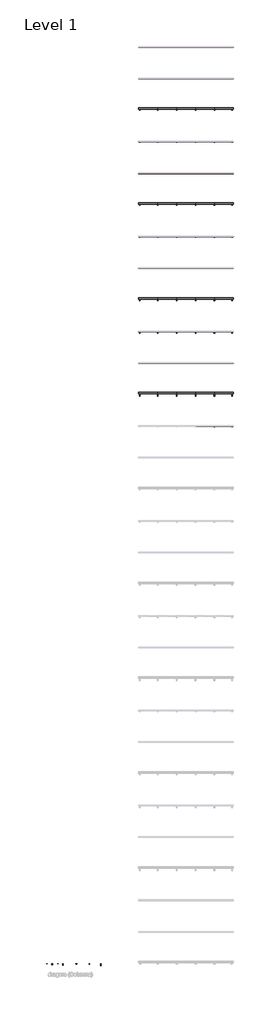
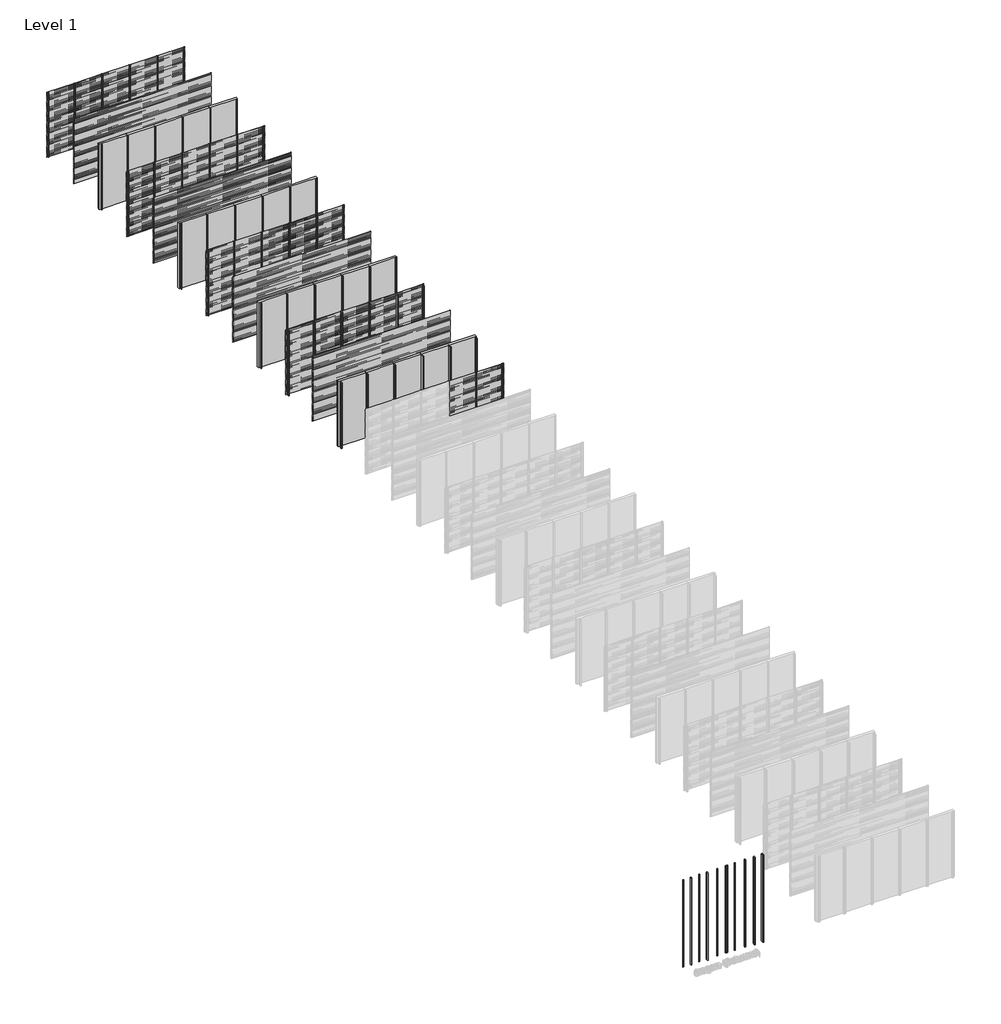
# One storey, part 2 of 33: 50 members, 46 plates, 10 columns.
"""IFC4 building model written with IfcOpenShell, lengths in millimetres."""

from ifc_helpers import new_model, si_unit, origin, origin_with_axes, place, context, project, spatial, polyline, outline, extrude, transform, mapped, element, save
from components import std_5c565dbb, std_899e7a4b, std_785593f7, std_43d18051, std_98619cea, std_01971508, std_518c84ec, std_1eaa2876, std_77a662f7, std_0d551fe3, rectangular_mullion_42be434b, rectangular_mullion_e1f482b2, rectangular_mullion_21e3ddae, rectangular_mullion_fb497acc, rectangular_mullion_3facce28, rectangular_mullion_ffdfeaf4, rectangular_mullion_e0a14876, rectangular_mullion_146f339b, rectangular_mullion_aa1047c5, rectangular_mullion_c2c7736a, rectangular_mullion_35b0a916, rectangular_mullion_bd250e2e, rectangular_mullion_7b49c8f1, rectangular_mullion_0fd695e7, empty_system_panel_empty_aabbdda4

model = new_model("IFC4")

# Units and contexts
model_context = context("Model", 3, world=origin())
ifc_project = project(units=[si_unit("LENGTHUNIT", "METRE", prefix="MILLI")], contexts=[model_context])

# Site, building, storey
site = spatial("IfcSite", under=ifc_project)
building = spatial("IfcBuilding", under=site)
storey = spatial("IfcBuildingStorey", under=building, Name="Level 1", Elevation=0.0)

# Columns
placement = place(None, origin())
std_shape = std_5c565dbb(model_context)
element("IfcColumn", 1, ObjectType="NLRS_21_COL_drager ST.014_Storax : std", at=placement, inside=storey, context=model_context, shape_type="MappedRepresentation", body=[
    mapped(std_shape, transform((-5824.7601511, -58000.0, 0.0), x_axis=(1.0, 0.0, 0.0), y_axis=(0.0, 1.0, 0.0), z_axis=(0.0, 0.0, 1.0))),
])
std_2_shape = std_899e7a4b(model_context)
element("IfcColumn", 2, ObjectType="NLRS_21_COL_drager ST.054_Storax : std", at=placement, inside=storey, context=model_context, shape_type="MappedRepresentation", body=[
    mapped(std_2_shape, transform((-5485.4429851, -58000.0, 0.0), x_axis=(1.0, 0.0, 0.0), y_axis=(0.0, 1.0, 0.0), z_axis=(0.0, 0.0, 1.0))),
])
std_3_shape = std_785593f7(model_context)
element("IfcColumn", 3, ObjectType="NLRS_21_COL_drager ST.0065_Storax : std", at=placement, inside=storey, context=model_context, shape_type="MappedRepresentation", body=[
    mapped(std_3_shape, transform((-5120.6954358, -58000.0, 0.0), x_axis=(1.0, 0.0, 0.0), y_axis=(0.0, 1.0, 0.0), z_axis=(0.0, 0.0, 1.0))),
])
std_4_shape = std_43d18051(model_context)
element("IfcColumn", 4, ObjectType="NLRS_21_COL_drager ST.100_Storax : std", at=placement, inside=storey, context=model_context, shape_type="MappedRepresentation", body=[
    mapped(std_4_shape, transform((-4798.3288682, -58000.0, 0.0), x_axis=(1.0, 0.0, 0.0), y_axis=(0.0, 1.0, 0.0), z_axis=(0.0, 0.0, 1.0))),
])
std_5_shape = std_98619cea(model_context)
element("IfcColumn", 5, ObjectType="NLRS_21_COL_drager ST.0195_Storax : std", at=placement, inside=storey, context=model_context, shape_type="MappedRepresentation", body=[
    mapped(std_5_shape, transform((-4346.8344505, -58000.0, 0.0), x_axis=(1.0, 0.0, 0.0), y_axis=(0.0, 1.0, 0.0), z_axis=(0.0, 0.0, 1.0))),
])
std_6_shape = std_01971508(model_context)
element("IfcColumn", 6, ObjectType="NLRS_21_COL_drager ST.0240_Storax : std", at=placement, inside=storey, context=model_context, shape_type="MappedRepresentation", body=[
    mapped(std_6_shape, transform((-3939.4792083, -58000.0, 0.0), x_axis=(1.0, 0.0, 0.0), y_axis=(0.0, 1.0, 0.0), z_axis=(0.0, 0.0, 1.0))),
])
std_7_shape = std_518c84ec(model_context)
element("IfcColumn", 7, ObjectType="NLRS_21_COL_drager ST.0440_Storax : std", at=placement, inside=storey, context=model_context, shape_type="MappedRepresentation", body=[
    mapped(std_7_shape, transform((-3585.3839676, -58000.0, 0.0), x_axis=(1.0, 0.0, 0.0), y_axis=(0.0, 1.0, 0.0), z_axis=(0.0, 0.0, 1.0))),
])
std_8_shape = std_1eaa2876(model_context)
element("IfcColumn", 8, ObjectType="NLRS_21_COL_drager ST.0460_Storax : std", at=placement, inside=storey, context=model_context, shape_type="MappedRepresentation", body=[
    mapped(std_8_shape, transform((-3138.0700537, -58000.0, 0.0), x_axis=(1.0, 0.0, 0.0), y_axis=(0.0, 1.0, 0.0), z_axis=(0.0, 0.0, 1.0))),
])
std_9_shape = std_77a662f7(model_context)
element("IfcColumn", 9, ObjectType="NLRS_21_COL_drager ST.0995_Storax : std", at=placement, inside=storey, context=model_context, shape_type="MappedRepresentation", body=[
    mapped(std_9_shape, transform((-2753.4636979, -58000.0, 0.0), x_axis=(1.0, 0.0, 0.0), y_axis=(0.0, 1.0, 0.0), z_axis=(0.0, 0.0, 1.0))),
])
std_10_shape = std_0d551fe3(model_context)
element("IfcColumn", 10, ObjectType="NLRS_21_COL_drager ST.1250_Storax : std", at=placement, inside=storey, context=model_context, shape_type="MappedRepresentation", body=[
    mapped(std_10_shape, transform((-2393.9403653, -58000.0, 0.0), x_axis=(1.0, 0.0, 0.0), y_axis=(0.0, 1.0, 0.0), z_axis=(0.0, 0.0, 1.0))),
])

# Members
rectangular_mullion_shape = rectangular_mullion_42be434b(model_context)
element("IfcMember", 11, ObjectType="Rectangular Mullion : NLRS_21_CWM_drager LD.0065_Storax", at=placement, inside=storey, context=model_context, shape_type="MappedRepresentation", body=[
    mapped(rectangular_mullion_shape, transform((4800.0, 0.0, 0.0), x_axis=(-1.0, 0.0, 0.0), y_axis=(0.0, 1.0, 0.0), z_axis=(0.0, 0.0, -1.0))),
])
element("IfcMember", 12, ObjectType="Rectangular Mullion : NLRS_21_CWM_drager LD.0065_Storax", at=placement, inside=storey, context=model_context, shape_type="MappedRepresentation", body=[
    mapped(rectangular_mullion_shape, transform((3600.0, 0.0, 0.0), x_axis=(-1.0, 0.0, 0.0), y_axis=(0.0, 1.0, 0.0), z_axis=(0.0, 0.0, -1.0))),
])
element("IfcMember", 13, ObjectType="Rectangular Mullion : NLRS_21_CWM_drager LD.0065_Storax", at=placement, inside=storey, context=model_context, shape_type="MappedRepresentation", body=[
    mapped(rectangular_mullion_shape, transform((2400.0, 0.0, 0.0), x_axis=(-1.0, 0.0, 0.0), y_axis=(0.0, 1.0, 0.0), z_axis=(0.0, 0.0, -1.0))),
])
element("IfcMember", 14, ObjectType="Rectangular Mullion : NLRS_21_CWM_drager LD.0065_Storax", at=placement, inside=storey, context=model_context, shape_type="MappedRepresentation", body=[
    mapped(rectangular_mullion_shape, transform((1200.0, 0.0, 0.0), x_axis=(-1.0, 0.0, 0.0), y_axis=(0.0, 1.0, 0.0), z_axis=(0.0, 0.0, -1.0))),
])
element("IfcMember", 15, ObjectType="Rectangular Mullion : NLRS_21_CWM_drager LD.0065_Storax", at=placement, inside=storey, context=model_context, shape_type="MappedRepresentation", body=[
    mapped(rectangular_mullion_shape, transform((4800.0, -4000.0, 0.0), x_axis=(-1.0, 0.0, 0.0), y_axis=(0.0, 1.0, 0.0), z_axis=(0.0, 0.0, -1.0))),
])
element("IfcMember", 16, ObjectType="Rectangular Mullion : NLRS_21_CWM_drager LD.0065_Storax", at=placement, inside=storey, context=model_context, shape_type="MappedRepresentation", body=[
    mapped(rectangular_mullion_shape, transform((3600.0, -4000.0, 0.0), x_axis=(-1.0, 0.0, 0.0), y_axis=(0.0, 1.0, 0.0), z_axis=(0.0, 0.0, -1.0))),
])
element("IfcMember", 17, ObjectType="Rectangular Mullion : NLRS_21_CWM_drager LD.0065_Storax", at=placement, inside=storey, context=model_context, shape_type="MappedRepresentation", body=[
    mapped(rectangular_mullion_shape, transform((2400.0, -4000.0, 0.0), x_axis=(-1.0, 0.0, 0.0), y_axis=(0.0, 1.0, 0.0), z_axis=(0.0, 0.0, -1.0))),
])
element("IfcMember", 18, ObjectType="Rectangular Mullion : NLRS_21_CWM_drager LD.0065_Storax", at=placement, inside=storey, context=model_context, shape_type="MappedRepresentation", body=[
    mapped(rectangular_mullion_shape, transform((1200.0, -4000.0, 0.0), x_axis=(-1.0, 0.0, 0.0), y_axis=(0.0, 1.0, 0.0), z_axis=(0.0, 0.0, -1.0))),
])
rectangular_mullion_2_shape = rectangular_mullion_e1f482b2(model_context)
element("IfcMember", 19, ObjectType="Rectangular Mullion : NLRS_21_CWM_drager LD.0195_Storax", at=placement, inside=storey, context=model_context, shape_type="MappedRepresentation", body=[
    mapped(rectangular_mullion_2_shape, transform((4800.0, -6000.0, 0.0), x_axis=(-1.0, 0.0, 0.0), y_axis=(0.0, 1.0, 0.0), z_axis=(0.0, 0.0, -1.0))),
])
element("IfcMember", 20, ObjectType="Rectangular Mullion : NLRS_21_CWM_drager LD.0195_Storax", at=placement, inside=storey, context=model_context, shape_type="MappedRepresentation", body=[
    mapped(rectangular_mullion_2_shape, transform((3600.0, -6000.0, 0.0), x_axis=(-1.0, 0.0, 0.0), y_axis=(0.0, 1.0, 0.0), z_axis=(0.0, 0.0, -1.0))),
])
element("IfcMember", 21, ObjectType="Rectangular Mullion : NLRS_21_CWM_drager LD.0195_Storax", at=placement, inside=storey, context=model_context, shape_type="MappedRepresentation", body=[
    mapped(rectangular_mullion_2_shape, transform((2400.0, -6000.0, 0.0), x_axis=(-1.0, 0.0, 0.0), y_axis=(0.0, 1.0, 0.0), z_axis=(0.0, 0.0, -1.0))),
])
element("IfcMember", 22, ObjectType="Rectangular Mullion : NLRS_21_CWM_drager LD.0195_Storax", at=placement, inside=storey, context=model_context, shape_type="MappedRepresentation", body=[
    mapped(rectangular_mullion_2_shape, transform((1200.0, -6000.0, 0.0), x_axis=(-1.0, 0.0, 0.0), y_axis=(0.0, 1.0, 0.0), z_axis=(0.0, 0.0, -1.0))),
])
element("IfcMember", 23, ObjectType="Rectangular Mullion : NLRS_21_CWM_drager LD.0195_Storax", at=placement, inside=storey, context=model_context, shape_type="MappedRepresentation", body=[
    mapped(rectangular_mullion_2_shape, transform((4800.0, -10000.0, 0.0), x_axis=(-1.0, 0.0, 0.0), y_axis=(0.0, 1.0, 0.0), z_axis=(0.0, 0.0, -1.0))),
])
element("IfcMember", 24, ObjectType="Rectangular Mullion : NLRS_21_CWM_drager LD.0195_Storax", at=placement, inside=storey, context=model_context, shape_type="MappedRepresentation", body=[
    mapped(rectangular_mullion_2_shape, transform((3600.0, -10000.0, 0.0), x_axis=(-1.0, 0.0, 0.0), y_axis=(0.0, 1.0, 0.0), z_axis=(0.0, 0.0, -1.0))),
])
element("IfcMember", 25, ObjectType="Rectangular Mullion : NLRS_21_CWM_drager LD.0195_Storax", at=placement, inside=storey, context=model_context, shape_type="MappedRepresentation", body=[
    mapped(rectangular_mullion_2_shape, transform((2400.0, -10000.0, 0.0), x_axis=(-1.0, 0.0, 0.0), y_axis=(0.0, 1.0, 0.0), z_axis=(0.0, 0.0, -1.0))),
])
element("IfcMember", 26, ObjectType="Rectangular Mullion : NLRS_21_CWM_drager LD.0195_Storax", at=placement, inside=storey, context=model_context, shape_type="MappedRepresentation", body=[
    mapped(rectangular_mullion_2_shape, transform((1200.0, -10000.0, 0.0), x_axis=(-1.0, 0.0, 0.0), y_axis=(0.0, 1.0, 0.0), z_axis=(0.0, 0.0, -1.0))),
])
rectangular_mullion_3_shape = rectangular_mullion_21e3ddae(model_context)
element("IfcMember", 27, ObjectType="Rectangular Mullion : NLRS_21_CWM_drager LD.0460_Storax", at=placement, inside=storey, context=model_context, shape_type="MappedRepresentation", body=[
    mapped(rectangular_mullion_3_shape, transform((4800.0, -12000.0, 0.0), x_axis=(-1.0, 0.0, 0.0), y_axis=(0.0, 1.0, 0.0), z_axis=(0.0, 0.0, -1.0))),
])
element("IfcMember", 28, ObjectType="Rectangular Mullion : NLRS_21_CWM_drager LD.0460_Storax", at=placement, inside=storey, context=model_context, shape_type="MappedRepresentation", body=[
    mapped(rectangular_mullion_3_shape, transform((3600.0, -12000.0, 0.0), x_axis=(-1.0, 0.0, 0.0), y_axis=(0.0, 1.0, 0.0), z_axis=(0.0, 0.0, -1.0))),
])
element("IfcMember", 29, ObjectType="Rectangular Mullion : NLRS_21_CWM_drager LD.0460_Storax", at=placement, inside=storey, context=model_context, shape_type="MappedRepresentation", body=[
    mapped(rectangular_mullion_3_shape, transform((2400.0, -12000.0, 0.0), x_axis=(-1.0, 0.0, 0.0), y_axis=(0.0, 1.0, 0.0), z_axis=(0.0, 0.0, -1.0))),
])
element("IfcMember", 30, ObjectType="Rectangular Mullion : NLRS_21_CWM_drager LD.0460_Storax", at=placement, inside=storey, context=model_context, shape_type="MappedRepresentation", body=[
    mapped(rectangular_mullion_3_shape, transform((1200.0, -12000.0, 0.0), x_axis=(-1.0, 0.0, 0.0), y_axis=(0.0, 1.0, 0.0), z_axis=(0.0, 0.0, -1.0))),
])
element("IfcMember", 31, ObjectType="Rectangular Mullion : NLRS_21_CWM_drager LD.0460_Storax", at=placement, inside=storey, context=model_context, shape_type="MappedRepresentation", body=[
    mapped(rectangular_mullion_3_shape, transform((4800.0, -16000.0, 0.0), x_axis=(-1.0, 0.0, 0.0), y_axis=(0.0, 1.0, 0.0), z_axis=(0.0, 0.0, -1.0))),
])
element("IfcMember", 32, ObjectType="Rectangular Mullion : NLRS_21_CWM_drager LD.0460_Storax", at=placement, inside=storey, context=model_context, shape_type="MappedRepresentation", body=[
    mapped(rectangular_mullion_3_shape, transform((3600.0, -16000.0, 0.0), x_axis=(-1.0, 0.0, 0.0), y_axis=(0.0, 1.0, 0.0), z_axis=(0.0, 0.0, -1.0))),
])
element("IfcMember", 33, ObjectType="Rectangular Mullion : NLRS_21_CWM_drager LD.0460_Storax", at=placement, inside=storey, context=model_context, shape_type="MappedRepresentation", body=[
    mapped(rectangular_mullion_3_shape, transform((2400.0, -16000.0, 0.0), x_axis=(-1.0, 0.0, 0.0), y_axis=(0.0, 1.0, 0.0), z_axis=(0.0, 0.0, -1.0))),
])
element("IfcMember", 34, ObjectType="Rectangular Mullion : NLRS_21_CWM_drager LD.0460_Storax", at=placement, inside=storey, context=model_context, shape_type="MappedRepresentation", body=[
    mapped(rectangular_mullion_3_shape, transform((1200.0, -16000.0, 0.0), x_axis=(-1.0, 0.0, 0.0), y_axis=(0.0, 1.0, 0.0), z_axis=(0.0, 0.0, -1.0))),
])
rectangular_mullion_4_shape = rectangular_mullion_fb497acc(model_context)
element("IfcMember", 35, ObjectType="Rectangular Mullion : NLRS_21_CWM_drager LD.0995_Storax", at=placement, inside=storey, context=model_context, shape_type="MappedRepresentation", body=[
    mapped(rectangular_mullion_4_shape, transform((4800.0, -18000.0, 0.0), x_axis=(-1.0, 0.0, 0.0), y_axis=(0.0, 1.0, 0.0), z_axis=(0.0, 0.0, -1.0))),
])
element("IfcMember", 36, ObjectType="Rectangular Mullion : NLRS_21_CWM_drager LD.0995_Storax", at=placement, inside=storey, context=model_context, shape_type="MappedRepresentation", body=[
    mapped(rectangular_mullion_4_shape, transform((3600.0, -18000.0, 0.0), x_axis=(-1.0, 0.0, 0.0), y_axis=(0.0, 1.0, 0.0), z_axis=(0.0, 0.0, -1.0))),
])
element("IfcMember", 37, ObjectType="Rectangular Mullion : NLRS_21_CWM_drager LD.0995_Storax", at=placement, inside=storey, context=model_context, shape_type="MappedRepresentation", body=[
    mapped(rectangular_mullion_4_shape, transform((2400.0, -18000.0, 0.0), x_axis=(-1.0, 0.0, 0.0), y_axis=(0.0, 1.0, 0.0), z_axis=(0.0, 0.0, -1.0))),
])
element("IfcMember", 38, ObjectType="Rectangular Mullion : NLRS_21_CWM_drager LD.0995_Storax", at=placement, inside=storey, context=model_context, shape_type="MappedRepresentation", body=[
    mapped(rectangular_mullion_4_shape, transform((1200.0, -18000.0, 0.0), x_axis=(-1.0, 0.0, 0.0), y_axis=(0.0, 1.0, 0.0), z_axis=(0.0, 0.0, -1.0))),
])
element("IfcMember", 39, ObjectType="Rectangular Mullion : NLRS_21_CWM_drager LD.0995_Storax", at=placement, inside=storey, context=model_context, shape_type="MappedRepresentation", body=[
    mapped(rectangular_mullion_4_shape, transform((4800.0, -22000.0, 0.0), x_axis=(-1.0, 0.0, 0.0), y_axis=(0.0, 1.0, 0.0), z_axis=(0.0, 0.0, -1.0))),
])
element("IfcMember", 40, ObjectType="Rectangular Mullion : NLRS_21_CWM_drager LD.0995_Storax", at=placement, inside=storey, context=model_context, shape_type="MappedRepresentation", body=[
    mapped(rectangular_mullion_4_shape, transform((3600.0, -22000.0, 0.0), x_axis=(-1.0, 0.0, 0.0), y_axis=(0.0, 1.0, 0.0), z_axis=(0.0, 0.0, -1.0))),
])
element("IfcMember", 41, ObjectType="Rectangular Mullion : NLRS_21_CWM_drager LD.0995_Storax", at=placement, inside=storey, context=model_context, shape_type="MappedRepresentation", body=[
    mapped(rectangular_mullion_4_shape, transform((2400.0, -22000.0, 0.0), x_axis=(-1.0, 0.0, 0.0), y_axis=(0.0, 1.0, 0.0), z_axis=(0.0, 0.0, -1.0))),
])
element("IfcMember", 42, ObjectType="Rectangular Mullion : NLRS_21_CWM_drager LD.0995_Storax", at=placement, inside=storey, context=model_context, shape_type="MappedRepresentation", body=[
    mapped(rectangular_mullion_4_shape, transform((1200.0, -22000.0, 0.0), x_axis=(-1.0, 0.0, 0.0), y_axis=(0.0, 1.0, 0.0), z_axis=(0.0, 0.0, -1.0))),
])
rectangular_mullion_5_shape = rectangular_mullion_3facce28(model_context)
element("IfcMember", 43, ObjectType="Rectangular Mullion : NLRS_21_CWM_drager SD.014_Storax", at=placement, inside=storey, context=model_context, shape_type="MappedRepresentation", body=[
    mapped(rectangular_mullion_5_shape, transform((4800.0, -24000.0, 0.0), x_axis=(-1.0, 0.0, 0.0), y_axis=(0.0, 1.0, 0.0), z_axis=(0.0, 0.0, -1.0))),
])
rectangular_mullion_6_shape = rectangular_mullion_ffdfeaf4(model_context)
element("IfcMember", 44, ObjectType="Rectangular Mullion : NLRS_21_CWM_drager LD.0065 - links_Storax", at=placement, inside=storey, context=model_context, shape_type="MappedRepresentation", body=[
    mapped(rectangular_mullion_6_shape, transform((0.0, 0.0, 0.0), x_axis=(-1.0, 0.0, 0.0), y_axis=(0.0, 1.0, 0.0), z_axis=(0.0, 0.0, -1.0))),
])
element("IfcMember", 45, ObjectType="Rectangular Mullion : NLRS_21_CWM_drager LD.0065 - links_Storax", at=placement, inside=storey, context=model_context, shape_type="MappedRepresentation", body=[
    mapped(rectangular_mullion_6_shape, transform((0.0, -4000.0, 0.0), x_axis=(-1.0, 0.0, 0.0), y_axis=(0.0, 1.0, 0.0), z_axis=(0.0, 0.0, -1.0))),
])
rectangular_mullion_7_shape = rectangular_mullion_e0a14876(model_context)
element("IfcMember", 46, ObjectType="Rectangular Mullion : NLRS_21_CWM_drager LD.0065 - rechts_Storax", at=placement, inside=storey, context=model_context, shape_type="MappedRepresentation", body=[
    mapped(rectangular_mullion_7_shape, transform((6000.0, 0.0, 3000.0), x_axis=(1.0, 0.0, 0.0), y_axis=(0.0, 1.0, 0.0), z_axis=(0.0, 0.0, 1.0))),
])
element("IfcMember", 47, ObjectType="Rectangular Mullion : NLRS_21_CWM_drager LD.0065 - rechts_Storax", at=placement, inside=storey, context=model_context, shape_type="MappedRepresentation", body=[
    mapped(rectangular_mullion_7_shape, transform((6000.0, -4000.0, 3000.0), x_axis=(1.0, 0.0, 0.0), y_axis=(0.0, 1.0, 0.0), z_axis=(0.0, 0.0, 1.0))),
])
rectangular_mullion_8_shape = rectangular_mullion_146f339b(model_context)
element("IfcMember", 48, ObjectType="Rectangular Mullion : NLRS_21_CWM_drager LD.0195 - links_Storax", at=placement, inside=storey, context=model_context, shape_type="MappedRepresentation", body=[
    mapped(rectangular_mullion_8_shape, transform((0.0, -6000.0, 0.0), x_axis=(-1.0, 0.0, 0.0), y_axis=(0.0, 1.0, 0.0), z_axis=(0.0, 0.0, -1.0))),
])
element("IfcMember", 49, ObjectType="Rectangular Mullion : NLRS_21_CWM_drager LD.0195 - links_Storax", at=placement, inside=storey, context=model_context, shape_type="MappedRepresentation", body=[
    mapped(rectangular_mullion_8_shape, transform((0.0, -10000.0, 0.0), x_axis=(-1.0, 0.0, 0.0), y_axis=(0.0, 1.0, 0.0), z_axis=(0.0, 0.0, -1.0))),
])
rectangular_mullion_9_shape = rectangular_mullion_aa1047c5(model_context)
element("IfcMember", 50, ObjectType="Rectangular Mullion : NLRS_21_CWM_drager LD.0195 - rechts_Storax", at=placement, inside=storey, context=model_context, shape_type="MappedRepresentation", body=[
    mapped(rectangular_mullion_9_shape, transform((6000.0, -6000.0, 3000.0), x_axis=(1.0, 0.0, 0.0), y_axis=(0.0, 1.0, 0.0), z_axis=(0.0, 0.0, 1.0))),
])
element("IfcMember", 51, ObjectType="Rectangular Mullion : NLRS_21_CWM_drager LD.0195 - rechts_Storax", at=placement, inside=storey, context=model_context, shape_type="MappedRepresentation", body=[
    mapped(rectangular_mullion_9_shape, transform((6000.0, -10000.0, 3000.0), x_axis=(1.0, 0.0, 0.0), y_axis=(0.0, 1.0, 0.0), z_axis=(0.0, 0.0, 1.0))),
])
rectangular_mullion_10_shape = rectangular_mullion_c2c7736a(model_context)
element("IfcMember", 52, ObjectType="Rectangular Mullion : NLRS_21_CWM_drager LD.0460 - links_Storax", at=placement, inside=storey, context=model_context, shape_type="MappedRepresentation", body=[
    mapped(rectangular_mullion_10_shape, transform((0.0, -12000.0, 0.0), x_axis=(-1.0, 0.0, 0.0), y_axis=(0.0, 1.0, 0.0), z_axis=(0.0, 0.0, -1.0))),
])
element("IfcMember", 53, ObjectType="Rectangular Mullion : NLRS_21_CWM_drager LD.0460 - links_Storax", at=placement, inside=storey, context=model_context, shape_type="MappedRepresentation", body=[
    mapped(rectangular_mullion_10_shape, transform((0.0, -16000.0, 0.0), x_axis=(-1.0, 0.0, 0.0), y_axis=(0.0, 1.0, 0.0), z_axis=(0.0, 0.0, -1.0))),
])
rectangular_mullion_11_shape = rectangular_mullion_35b0a916(model_context)
element("IfcMember", 54, ObjectType="Rectangular Mullion : NLRS_21_CWM_drager LD.0460 - rechts_Storax", at=placement, inside=storey, context=model_context, shape_type="MappedRepresentation", body=[
    mapped(rectangular_mullion_11_shape, transform((6000.0, -12000.0, 3000.0), x_axis=(1.0, 0.0, 0.0), y_axis=(0.0, 1.0, 0.0), z_axis=(0.0, 0.0, 1.0))),
])
element("IfcMember", 55, ObjectType="Rectangular Mullion : NLRS_21_CWM_drager LD.0460 - rechts_Storax", at=placement, inside=storey, context=model_context, shape_type="MappedRepresentation", body=[
    mapped(rectangular_mullion_11_shape, transform((6000.0, -16000.0, 3000.0), x_axis=(1.0, 0.0, 0.0), y_axis=(0.0, 1.0, 0.0), z_axis=(0.0, 0.0, 1.0))),
])
rectangular_mullion_12_shape = rectangular_mullion_bd250e2e(model_context)
element("IfcMember", 56, ObjectType="Rectangular Mullion : NLRS_21_CWM_drager LD.0995 - links_Storax", at=placement, inside=storey, context=model_context, shape_type="MappedRepresentation", body=[
    mapped(rectangular_mullion_12_shape, transform((0.0, -18000.0, 0.0), x_axis=(-1.0, 0.0, 0.0), y_axis=(0.0, 1.0, 0.0), z_axis=(0.0, 0.0, -1.0))),
])
element("IfcMember", 57, ObjectType="Rectangular Mullion : NLRS_21_CWM_drager LD.0995 - links_Storax", at=placement, inside=storey, context=model_context, shape_type="MappedRepresentation", body=[
    mapped(rectangular_mullion_12_shape, transform((0.0, -22000.0, 0.0), x_axis=(-1.0, 0.0, 0.0), y_axis=(0.0, 1.0, 0.0), z_axis=(0.0, 0.0, -1.0))),
])
rectangular_mullion_13_shape = rectangular_mullion_7b49c8f1(model_context)
element("IfcMember", 58, ObjectType="Rectangular Mullion : NLRS_21_CWM_drager LD.0995 - rechts_Storax", at=placement, inside=storey, context=model_context, shape_type="MappedRepresentation", body=[
    mapped(rectangular_mullion_13_shape, transform((6000.0, -18000.0, 3000.0), x_axis=(1.0, 0.0, 0.0), y_axis=(0.0, 1.0, 0.0), z_axis=(0.0, 0.0, 1.0))),
])
element("IfcMember", 59, ObjectType="Rectangular Mullion : NLRS_21_CWM_drager LD.0995 - rechts_Storax", at=placement, inside=storey, context=model_context, shape_type="MappedRepresentation", body=[
    mapped(rectangular_mullion_13_shape, transform((6000.0, -22000.0, 3000.0), x_axis=(1.0, 0.0, 0.0), y_axis=(0.0, 1.0, 0.0), z_axis=(0.0, 0.0, 1.0))),
])
rectangular_mullion_14_shape = rectangular_mullion_0fd695e7(model_context)
element("IfcMember", 60, ObjectType="Rectangular Mullion : NLRS_21_CWM_drager SD.014 - rechts_Storax", at=placement, inside=storey, context=model_context, shape_type="MappedRepresentation", body=[
    mapped(rectangular_mullion_14_shape, transform((6000.0, -24000.0, 3000.0), x_axis=(1.0, 0.0, 0.0), y_axis=(0.0, 1.0, 0.0), z_axis=(0.0, 0.0, 1.0))),
])

# Plates
element("IfcPlate", 61, ObjectType="NLRS_21_WA_lamellenwand Linius - L.066.06_Storax", at=placement, inside=storey, context=model_context, shape_type="SweptSolid", body=[
    extrude(outline(polyline([(0.0, 1.0), (1200.0, 1.0), (1200.0, -1.0), (0.0, -1.0), (0.0, 1.0)])), origin_with_axes(), (0.0, 0.0, 1.0), 3000.0),
])
element("IfcPlate", 62, ObjectType="NLRS_21_WA_lamellenwand Linius - L.066.06_Storax", at=placement, inside=storey, context=model_context, shape_type="SweptSolid", body=[
    extrude(outline(polyline([(1200.0, 1.0), (2400.0, 1.0), (2400.0, -1.0), (1200.0, -1.0), (1200.0, 1.0)])), origin_with_axes(), (0.0, 0.0, 1.0), 3000.0),
])
element("IfcPlate", 63, ObjectType="NLRS_21_WA_lamellenwand Linius - L.066.06_Storax", at=placement, inside=storey, context=model_context, shape_type="SweptSolid", body=[
    extrude(outline(polyline([(2400.0, 1.0), (3600.0, 1.0), (3600.0, -1.0), (2400.0, -1.0), (2400.0, 1.0)])), origin_with_axes(), (0.0, 0.0, 1.0), 3000.0),
])
element("IfcPlate", 64, ObjectType="NLRS_21_WA_lamellenwand Linius - L.066.06_Storax", at=placement, inside=storey, context=model_context, shape_type="SweptSolid", body=[
    extrude(outline(polyline([(3600.0, 1.0), (4800.0, 1.0), (4800.0, -1.0), (3600.0, -1.0), (3600.0, 1.0)])), origin_with_axes(), (0.0, 0.0, 1.0), 3000.0),
])
element("IfcPlate", 65, ObjectType="NLRS_21_WA_lamellenwand Linius - L.066.06_Storax", at=placement, inside=storey, context=model_context, shape_type="SweptSolid", body=[
    extrude(outline(polyline([(4800.0, 1.0), (6000.0, 1.0), (6000.0, -1.0), (4800.0, -1.0), (4800.0, 1.0)])), origin_with_axes(), (0.0, 0.0, 1.0), 3000.0),
])
element("IfcPlate", 66, ObjectType="NLRS_21_WA_lamellenwand Linius - L.066.06_Storax", at=placement, inside=storey, context=model_context, shape_type="SweptSolid", body=[
    extrude(outline(polyline([(0.0, -1999.0), (6000.0, -1999.0), (6000.0, -2001.0), (0.0, -2001.0), (0.0, -1999.0)])), origin_with_axes(), (0.0, 0.0, 1.0), 3000.0),
])
element("IfcPlate", 67, ObjectType="NLRS_21_WA_lamellenwand Linius - L.066.06_Storax", at=placement, inside=storey, context=model_context, shape_type="SweptSolid", body=[
    extrude(outline(polyline([(0.0, -5999.0), (1200.0, -5999.0), (1200.0, -6001.0), (0.0, -6001.0), (0.0, -5999.0)])), origin_with_axes(), (0.0, 0.0, 1.0), 3000.0),
])
element("IfcPlate", 68, ObjectType="NLRS_21_WA_lamellenwand Linius - L.066.06_Storax", at=placement, inside=storey, context=model_context, shape_type="SweptSolid", body=[
    extrude(outline(polyline([(1200.0, -5999.0), (2400.0, -5999.0), (2400.0, -6001.0), (1200.0, -6001.0), (1200.0, -5999.0)])), origin_with_axes(), (0.0, 0.0, 1.0), 3000.0),
])
element("IfcPlate", 69, ObjectType="NLRS_21_WA_lamellenwand Linius - L.066.06_Storax", at=placement, inside=storey, context=model_context, shape_type="SweptSolid", body=[
    extrude(outline(polyline([(2400.0, -5999.0), (3600.0, -5999.0), (3600.0, -6001.0), (2400.0, -6001.0), (2400.0, -5999.0)])), origin_with_axes(), (0.0, 0.0, 1.0), 3000.0),
])
element("IfcPlate", 70, ObjectType="NLRS_21_WA_lamellenwand Linius - L.066.06_Storax", at=placement, inside=storey, context=model_context, shape_type="SweptSolid", body=[
    extrude(outline(polyline([(3600.0, -5999.0), (4800.0, -5999.0), (4800.0, -6001.0), (3600.0, -6001.0), (3600.0, -5999.0)])), origin_with_axes(), (0.0, 0.0, 1.0), 3000.0),
])
element("IfcPlate", 71, ObjectType="NLRS_21_WA_lamellenwand Linius - L.066.06_Storax", at=placement, inside=storey, context=model_context, shape_type="SweptSolid", body=[
    extrude(outline(polyline([(4800.0, -5999.0), (6000.0, -5999.0), (6000.0, -6001.0), (4800.0, -6001.0), (4800.0, -5999.0)])), origin_with_axes(), (0.0, 0.0, 1.0), 3000.0),
])
element("IfcPlate", 72, ObjectType="NLRS_21_WA_lamellenwand Linius - L.066.06_Storax", at=placement, inside=storey, context=model_context, shape_type="SweptSolid", body=[
    extrude(outline(polyline([(0.0, -7999.0), (6000.0, -7999.0), (6000.0, -8001.0), (0.0, -8001.0), (0.0, -7999.0)])), origin_with_axes(), (0.0, 0.0, 1.0), 3000.0),
])
element("IfcPlate", 73, ObjectType="NLRS_21_WA_lamellenwand Linius - L.066.06_Storax", at=placement, inside=storey, context=model_context, shape_type="SweptSolid", body=[
    extrude(outline(polyline([(0.0, -11999.0), (1200.0, -11999.0), (1200.0, -12001.0), (0.0, -12001.0), (0.0, -11999.0)])), origin_with_axes(), (0.0, 0.0, 1.0), 3000.0),
])
element("IfcPlate", 74, ObjectType="NLRS_21_WA_lamellenwand Linius - L.066.06_Storax", at=placement, inside=storey, context=model_context, shape_type="SweptSolid", body=[
    extrude(outline(polyline([(1200.0, -11999.0), (2400.0, -11999.0), (2400.0, -12001.0), (1200.0, -12001.0), (1200.0, -11999.0)])), origin_with_axes(), (0.0, 0.0, 1.0), 3000.0),
])
element("IfcPlate", 75, ObjectType="NLRS_21_WA_lamellenwand Linius - L.066.06_Storax", at=placement, inside=storey, context=model_context, shape_type="SweptSolid", body=[
    extrude(outline(polyline([(2400.0, -11999.0), (3600.0, -11999.0), (3600.0, -12001.0), (2400.0, -12001.0), (2400.0, -11999.0)])), origin_with_axes(), (0.0, 0.0, 1.0), 3000.0),
])
element("IfcPlate", 76, ObjectType="NLRS_21_WA_lamellenwand Linius - L.066.06_Storax", at=placement, inside=storey, context=model_context, shape_type="SweptSolid", body=[
    extrude(outline(polyline([(3600.0, -11999.0), (4800.0, -11999.0), (4800.0, -12001.0), (3600.0, -12001.0), (3600.0, -11999.0)])), origin_with_axes(), (0.0, 0.0, 1.0), 3000.0),
])
element("IfcPlate", 77, ObjectType="NLRS_21_WA_lamellenwand Linius - L.066.06_Storax", at=placement, inside=storey, context=model_context, shape_type="SweptSolid", body=[
    extrude(outline(polyline([(4800.0, -11999.0), (6000.0, -11999.0), (6000.0, -12001.0), (4800.0, -12001.0), (4800.0, -11999.0)])), origin_with_axes(), (0.0, 0.0, 1.0), 3000.0),
])
element("IfcPlate", 78, ObjectType="NLRS_21_WA_lamellenwand Linius - L.066.06_Storax", at=placement, inside=storey, context=model_context, shape_type="SweptSolid", body=[
    extrude(outline(polyline([(0.0, -13999.0), (6000.0, -13999.0), (6000.0, -14001.0), (0.0, -14001.0), (0.0, -13999.0)])), origin_with_axes(), (0.0, 0.0, 1.0), 3000.0),
])
element("IfcPlate", 79, ObjectType="NLRS_21_WA_lamellenwand Linius - L.066.06_Storax", at=placement, inside=storey, context=model_context, shape_type="SweptSolid", body=[
    extrude(outline(polyline([(0.0, -17999.0), (1200.0, -17999.0), (1200.0, -18001.0), (0.0, -18001.0), (0.0, -17999.0)])), origin_with_axes(), (0.0, 0.0, 1.0), 3000.0),
])
element("IfcPlate", 80, ObjectType="NLRS_21_WA_lamellenwand Linius - L.066.06_Storax", at=placement, inside=storey, context=model_context, shape_type="SweptSolid", body=[
    extrude(outline(polyline([(1200.0, -17999.0), (2400.0, -17999.0), (2400.0, -18001.0), (1200.0, -18001.0), (1200.0, -17999.0)])), origin_with_axes(), (0.0, 0.0, 1.0), 3000.0),
])
element("IfcPlate", 81, ObjectType="NLRS_21_WA_lamellenwand Linius - L.066.06_Storax", at=placement, inside=storey, context=model_context, shape_type="SweptSolid", body=[
    extrude(outline(polyline([(2400.0, -17999.0), (3600.0, -17999.0), (3600.0, -18001.0), (2400.0, -18001.0), (2400.0, -17999.0)])), origin_with_axes(), (0.0, 0.0, 1.0), 3000.0),
])
element("IfcPlate", 82, ObjectType="NLRS_21_WA_lamellenwand Linius - L.066.06_Storax", at=placement, inside=storey, context=model_context, shape_type="SweptSolid", body=[
    extrude(outline(polyline([(3600.0, -17999.0), (4800.0, -17999.0), (4800.0, -18001.0), (3600.0, -18001.0), (3600.0, -17999.0)])), origin_with_axes(), (0.0, 0.0, 1.0), 3000.0),
])
element("IfcPlate", 83, ObjectType="NLRS_21_WA_lamellenwand Linius - L.066.06_Storax", at=placement, inside=storey, context=model_context, shape_type="SweptSolid", body=[
    extrude(outline(polyline([(4800.0, -17999.0), (6000.0, -17999.0), (6000.0, -18001.0), (4800.0, -18001.0), (4800.0, -17999.0)])), origin_with_axes(), (0.0, 0.0, 1.0), 3000.0),
])
element("IfcPlate", 84, ObjectType="NLRS_21_WA_lamellenwand Linius - L.066.06_Storax", at=placement, inside=storey, context=model_context, shape_type="SweptSolid", body=[
    extrude(outline(polyline([(0.0, -19999.0), (6000.0, -19999.0), (6000.0, -20001.0), (0.0, -20001.0), (0.0, -19999.0)])), origin_with_axes(), (0.0, 0.0, 1.0), 3000.0),
])
element("IfcPlate", 85, ObjectType="NLRS_21_WA_lamellenwand Linius - L.066.06_Storax", at=placement, inside=storey, context=model_context, shape_type="SweptSolid", body=[
    extrude(outline(polyline([(3600.0, -23999.0), (4800.0, -23999.0), (4800.0, -24001.0), (3600.0, -24001.0), (3600.0, -23999.0)])), origin_with_axes(), (0.0, 0.0, 1.0), 3000.0),
])
element("IfcPlate", 86, ObjectType="NLRS_21_WA_lamellenwand Linius - L.066.06_Storax", at=placement, inside=storey, context=model_context, shape_type="SweptSolid", body=[
    extrude(outline(polyline([(4800.0, -23999.0), (6000.0, -23999.0), (6000.0, -24001.0), (4800.0, -24001.0), (4800.0, -23999.0)])), origin_with_axes(), (0.0, 0.0, 1.0), 3000.0),
])
empty_system_panel_empty_shape = empty_system_panel_empty_aabbdda4(model_context)
element("IfcPlate", 87, ObjectType="Empty System Panel : Empty", at=placement, inside=storey, context=model_context, shape_type="MappedRepresentation", body=[
    mapped(empty_system_panel_empty_shape, transform((5400.0, -4000.0, 0.0), x_axis=(-1.0, 0.0, 0.0), y_axis=(0.0, -1.0, 0.0), z_axis=(0.0, 0.0, 1.0))),
])
element("IfcPlate", 88, ObjectType="Empty System Panel : Empty", at=placement, inside=storey, context=model_context, shape_type="MappedRepresentation", body=[
    mapped(empty_system_panel_empty_shape, transform((5400.0, -10000.0, 0.0), x_axis=(-1.0, 0.0, 0.0), y_axis=(0.0, -1.0, 0.0), z_axis=(0.0, 0.0, 1.0))),
])
element("IfcPlate", 89, ObjectType="Empty System Panel : Empty", at=placement, inside=storey, context=model_context, shape_type="MappedRepresentation", body=[
    mapped(empty_system_panel_empty_shape, transform((5400.0, -16000.0, 0.0), x_axis=(-1.0, 0.0, 0.0), y_axis=(0.0, -1.0, 0.0), z_axis=(0.0, 0.0, 1.0))),
])
element("IfcPlate", 90, ObjectType="Empty System Panel : Empty", at=placement, inside=storey, context=model_context, shape_type="MappedRepresentation", body=[
    mapped(empty_system_panel_empty_shape, transform((5400.0, -22000.0, 0.0), x_axis=(-1.0, 0.0, 0.0), y_axis=(0.0, -1.0, 0.0), z_axis=(0.0, 0.0, 1.0))),
])
element("IfcPlate", 91, ObjectType="Empty System Panel : Empty", at=placement, inside=storey, context=model_context, shape_type="MappedRepresentation", body=[
    mapped(empty_system_panel_empty_shape, transform((4200.0, -4000.0, 0.0), x_axis=(-1.0, 0.0, 0.0), y_axis=(0.0, -1.0, 0.0), z_axis=(0.0, 0.0, 1.0))),
])
element("IfcPlate", 92, ObjectType="Empty System Panel : Empty", at=placement, inside=storey, context=model_context, shape_type="MappedRepresentation", body=[
    mapped(empty_system_panel_empty_shape, transform((3000.0, -4000.0, 0.0), x_axis=(-1.0, 0.0, 0.0), y_axis=(0.0, -1.0, 0.0), z_axis=(0.0, 0.0, 1.0))),
])
element("IfcPlate", 93, ObjectType="Empty System Panel : Empty", at=placement, inside=storey, context=model_context, shape_type="MappedRepresentation", body=[
    mapped(empty_system_panel_empty_shape, transform((1800.0, -4000.0, 0.0), x_axis=(-1.0, 0.0, 0.0), y_axis=(0.0, -1.0, 0.0), z_axis=(0.0, 0.0, 1.0))),
])
element("IfcPlate", 94, ObjectType="Empty System Panel : Empty", at=placement, inside=storey, context=model_context, shape_type="MappedRepresentation", body=[
    mapped(empty_system_panel_empty_shape, transform((600.0, -4000.0, 0.0), x_axis=(-1.0, 0.0, 0.0), y_axis=(0.0, -1.0, 0.0), z_axis=(0.0, 0.0, 1.0))),
])
element("IfcPlate", 95, ObjectType="Empty System Panel : Empty", at=placement, inside=storey, context=model_context, shape_type="MappedRepresentation", body=[
    mapped(empty_system_panel_empty_shape, transform((4200.0, -10000.0, 0.0), x_axis=(-1.0, 0.0, 0.0), y_axis=(0.0, -1.0, 0.0), z_axis=(0.0, 0.0, 1.0))),
])
element("IfcPlate", 96, ObjectType="Empty System Panel : Empty", at=placement, inside=storey, context=model_context, shape_type="MappedRepresentation", body=[
    mapped(empty_system_panel_empty_shape, transform((3000.0, -10000.0, 0.0), x_axis=(-1.0, 0.0, 0.0), y_axis=(0.0, -1.0, 0.0), z_axis=(0.0, 0.0, 1.0))),
])
element("IfcPlate", 97, ObjectType="Empty System Panel : Empty", at=placement, inside=storey, context=model_context, shape_type="MappedRepresentation", body=[
    mapped(empty_system_panel_empty_shape, transform((1800.0, -10000.0, 0.0), x_axis=(-1.0, 0.0, 0.0), y_axis=(0.0, -1.0, 0.0), z_axis=(0.0, 0.0, 1.0))),
])
element("IfcPlate", 98, ObjectType="Empty System Panel : Empty", at=placement, inside=storey, context=model_context, shape_type="MappedRepresentation", body=[
    mapped(empty_system_panel_empty_shape, transform((600.0, -10000.0, 0.0), x_axis=(-1.0, 0.0, 0.0), y_axis=(0.0, -1.0, 0.0), z_axis=(0.0, 0.0, 1.0))),
])
element("IfcPlate", 99, ObjectType="Empty System Panel : Empty", at=placement, inside=storey, context=model_context, shape_type="MappedRepresentation", body=[
    mapped(empty_system_panel_empty_shape, transform((4200.0, -16000.0, 0.0), x_axis=(-1.0, 0.0, 0.0), y_axis=(0.0, -1.0, 0.0), z_axis=(0.0, 0.0, 1.0))),
])
element("IfcPlate", 100, ObjectType="Empty System Panel : Empty", at=placement, inside=storey, context=model_context, shape_type="MappedRepresentation", body=[
    mapped(empty_system_panel_empty_shape, transform((3000.0, -16000.0, 0.0), x_axis=(-1.0, 0.0, 0.0), y_axis=(0.0, -1.0, 0.0), z_axis=(0.0, 0.0, 1.0))),
])
element("IfcPlate", 101, ObjectType="Empty System Panel : Empty", at=placement, inside=storey, context=model_context, shape_type="MappedRepresentation", body=[
    mapped(empty_system_panel_empty_shape, transform((1800.0, -16000.0, 0.0), x_axis=(-1.0, 0.0, 0.0), y_axis=(0.0, -1.0, 0.0), z_axis=(0.0, 0.0, 1.0))),
])
element("IfcPlate", 102, ObjectType="Empty System Panel : Empty", at=placement, inside=storey, context=model_context, shape_type="MappedRepresentation", body=[
    mapped(empty_system_panel_empty_shape, transform((600.0, -16000.0, 0.0), x_axis=(-1.0, 0.0, 0.0), y_axis=(0.0, -1.0, 0.0), z_axis=(0.0, 0.0, 1.0))),
])
element("IfcPlate", 103, ObjectType="Empty System Panel : Empty", at=placement, inside=storey, context=model_context, shape_type="MappedRepresentation", body=[
    mapped(empty_system_panel_empty_shape, transform((4200.0, -22000.0, 0.0), x_axis=(-1.0, 0.0, 0.0), y_axis=(0.0, -1.0, 0.0), z_axis=(0.0, 0.0, 1.0))),
])
element("IfcPlate", 104, ObjectType="Empty System Panel : Empty", at=placement, inside=storey, context=model_context, shape_type="MappedRepresentation", body=[
    mapped(empty_system_panel_empty_shape, transform((3000.0, -22000.0, 0.0), x_axis=(-1.0, 0.0, 0.0), y_axis=(0.0, -1.0, 0.0), z_axis=(0.0, 0.0, 1.0))),
])
element("IfcPlate", 105, ObjectType="Empty System Panel : Empty", at=placement, inside=storey, context=model_context, shape_type="MappedRepresentation", body=[
    mapped(empty_system_panel_empty_shape, transform((1800.0, -22000.0, 0.0), x_axis=(-1.0, 0.0, 0.0), y_axis=(0.0, -1.0, 0.0), z_axis=(0.0, 0.0, 1.0))),
])
element("IfcPlate", 106, ObjectType="Empty System Panel : Empty", at=placement, inside=storey, context=model_context, shape_type="MappedRepresentation", body=[
    mapped(empty_system_panel_empty_shape, transform((600.0, -22000.0, 0.0), x_axis=(-1.0, 0.0, 0.0), y_axis=(0.0, -1.0, 0.0), z_axis=(0.0, 0.0, 1.0))),
])

save(model, "model.ifc")
